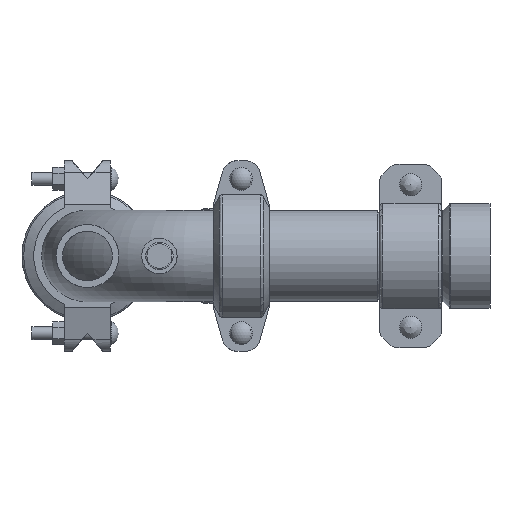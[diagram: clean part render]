
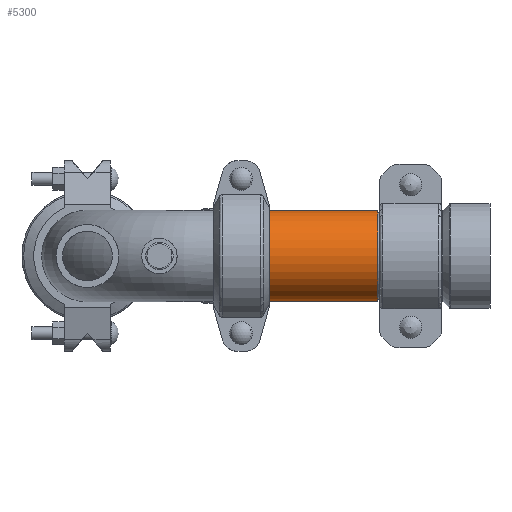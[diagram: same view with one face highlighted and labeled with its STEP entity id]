
A CAD part, front view. The second image highlights one B-rep face of the part: STEP entity #5300.
In plain terms, the highlighted cylindrical face has radius 44.45 mm (diameter 88.9 mm), a full revolution.
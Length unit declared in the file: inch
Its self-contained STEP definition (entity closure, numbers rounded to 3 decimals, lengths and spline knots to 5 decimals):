
#202=CYLINDRICAL_SURFACE('',#5878,1.75);
#627=LINE('',#8873,#977);
#977=VECTOR('',#6958,1.75);
#1292=FACE_OUTER_BOUND('',#1588,.T.);
#1588=EDGE_LOOP('',(#4043,#4044,#4045,#4046,#4047,#4048));
#1923=CIRCLE('',#5876,1.75);
#1924=CIRCLE('',#5877,1.75);
#1925=CIRCLE('',#5879,1.75);
#1926=CIRCLE('',#5880,1.75);
#2332=VERTEX_POINT('',#8864);
#2333=VERTEX_POINT('',#8865);
#2334=VERTEX_POINT('',#8869);
#2335=VERTEX_POINT('',#8870);
#2956=EDGE_CURVE('',#2332,#2333,#1923,.T.);
#2957=EDGE_CURVE('',#2333,#2332,#1924,.T.);
#2958=EDGE_CURVE('',#2334,#2335,#1925,.T.);
#2959=EDGE_CURVE('',#2335,#2334,#1926,.T.);
#2960=EDGE_CURVE('',#2335,#2333,#627,.T.);
#4043=ORIENTED_EDGE('',*,*,#2958,.F.);
#4044=ORIENTED_EDGE('',*,*,#2959,.F.);
#4045=ORIENTED_EDGE('',*,*,#2960,.T.);
#4046=ORIENTED_EDGE('',*,*,#2957,.T.);
#4047=ORIENTED_EDGE('',*,*,#2956,.T.);
#4048=ORIENTED_EDGE('',*,*,#2960,.F.);
#5300=ADVANCED_FACE('',(#1292),#202,.T.);
#5876=AXIS2_PLACEMENT_3D('',#8866,#6948,#6949);
#5877=AXIS2_PLACEMENT_3D('',#8867,#6950,#6951);
#5878=AXIS2_PLACEMENT_3D('',#8868,#6952,#6953);
#5879=AXIS2_PLACEMENT_3D('',#8871,#6954,#6955);
#5880=AXIS2_PLACEMENT_3D('',#8872,#6956,#6957);
#6948=DIRECTION('center_axis',(1.,0.,0.));
#6949=DIRECTION('ref_axis',(0.,0.,-1.));
#6950=DIRECTION('center_axis',(1.,0.,0.));
#6951=DIRECTION('ref_axis',(0.,0.,-1.));
#6952=DIRECTION('center_axis',(1.,0.,0.));
#6953=DIRECTION('ref_axis',(0.,1.,0.));
#6954=DIRECTION('center_axis',(1.,0.,0.));
#6955=DIRECTION('ref_axis',(0.,0.,-1.));
#6956=DIRECTION('center_axis',(1.,0.,0.));
#6957=DIRECTION('ref_axis',(0.,0.,-1.));
#6958=DIRECTION('',(-1.,0.,0.));
#8864=CARTESIAN_POINT('',(-2.0635,1.75,0.));
#8865=CARTESIAN_POINT('',(-2.0635,-1.75,0.));
#8866=CARTESIAN_POINT('Origin',(-2.0635,0.,0.));
#8867=CARTESIAN_POINT('Origin',(-2.0635,0.,0.));
#8868=CARTESIAN_POINT('Origin',(0.,0.,0.));
#8869=CARTESIAN_POINT('',(2.0635,1.75,0.));
#8870=CARTESIAN_POINT('',(2.0635,-1.75,0.));
#8871=CARTESIAN_POINT('Origin',(2.0635,0.,0.));
#8872=CARTESIAN_POINT('Origin',(2.0635,0.,0.));
#8873=CARTESIAN_POINT('',(0.,-1.75,0.));
